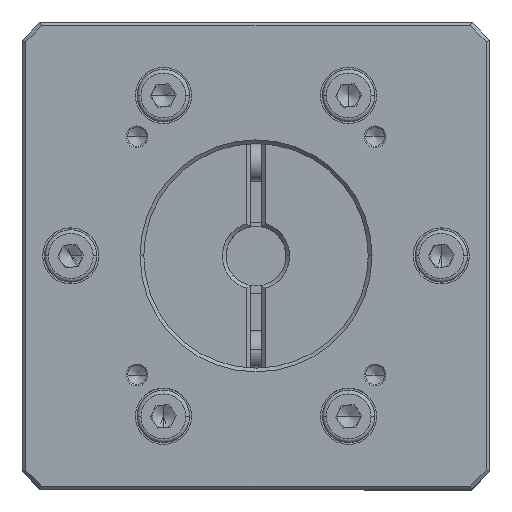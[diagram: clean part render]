
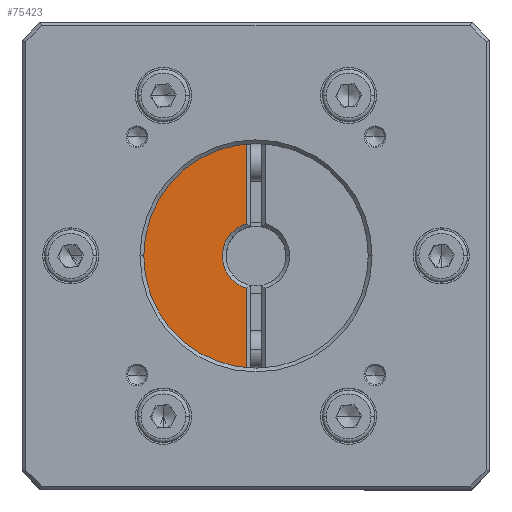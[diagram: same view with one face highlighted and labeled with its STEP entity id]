
A CAD part, top view. The second image highlights one B-rep face of the part: STEP entity #75423.
In plain terms, the highlighted planar face has unit normal (0, 0, 1).
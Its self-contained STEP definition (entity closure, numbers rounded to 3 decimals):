
#2745 = ORIENTED_EDGE ( 'NONE', *, *, #94154, .T. ) ;
#3579 = CIRCLE ( 'NONE', #80127, 17. ) ;
#9097 = DIRECTION ( 'NONE',  ( -1., 0., 0. ) ) ;
#12585 = DIRECTION ( 'NONE',  ( 0., 1., 0. ) ) ;
#16748 = DIRECTION ( 'NONE',  ( 0., 0., -1. ) ) ;
#17692 = EDGE_CURVE ( 'NONE', #57157, #33647, #42965, .T. ) ;
#23717 = EDGE_CURVE ( 'NONE', #57157, #89610, #3579, .T. ) ;
#23718 = DIRECTION ( 'NONE',  ( 0., 0., 1. ) ) ;
#27060 = CARTESIAN_POINT ( 'NONE',  ( -43.37, 4.341, 185.502 ) ) ;
#29405 = AXIS2_PLACEMENT_3D ( 'NONE', #78697, #23718, #87927 ) ;
#29545 = EDGE_CURVE ( 'NONE', #31370, #33647, #108641, .T. ) ;
#31370 = VERTEX_POINT ( 'NONE', #112452 ) ;
#33647 = VERTEX_POINT ( 'NONE', #43409 ) ;
#41619 = VERTEX_POINT ( 'NONE', #48979 ) ;
#42272 = CIRCLE ( 'NONE', #53329, 17. ) ;
#42965 = LINE ( 'NONE', #44922, #86034 ) ;
#43409 = CARTESIAN_POINT ( 'NONE',  ( -27.62, 0.018, 185.502 ) ) ;
#44835 = DIRECTION ( 'NONE',  ( 0., 0., -1. ) ) ;
#44922 = CARTESIAN_POINT ( 'NONE',  ( -27.62, -14.845, 185.502 ) ) ;
#48979 = CARTESIAN_POINT ( 'NONE',  ( -27.62, 21.295, 185.502 ) ) ;
#50903 = ORIENTED_EDGE ( 'NONE', *, *, #23717, .F. ) ;
#53329 = AXIS2_PLACEMENT_3D ( 'NONE', #99807, #44835, #109051 ) ;
#53371 = LINE ( 'NONE', #113385, #74943 ) ;
#54757 = EDGE_LOOP ( 'NONE', ( #50903, #78748, #106779, #2745, #118471 ) ) ;
#57157 = VERTEX_POINT ( 'NONE', #98048 ) ;
#64042 = DIRECTION ( 'NONE',  ( 0., 0., -1. ) ) ;
#71712 = CARTESIAN_POINT ( 'NONE',  ( -26.37, 4.341, 185.502 ) ) ;
#74943 = VECTOR ( 'NONE', #12585, 1000. ) ;
#75423 = ADVANCED_FACE ( 'NONE', ( #97488 ), #82099, .F. ) ;
#78697 = CARTESIAN_POINT ( 'NONE',  ( -26.37, 4.341, 185.502 ) ) ;
#78748 = ORIENTED_EDGE ( 'NONE', *, *, #17692, .T. ) ;
#80127 = AXIS2_PLACEMENT_3D ( 'NONE', #71712, #16748, #80956 ) ;
#80499 = EDGE_CURVE ( 'NONE', #89610, #41619, #42272, .T. ) ;
#80956 = DIRECTION ( 'NONE',  ( -1., 0., 0. ) ) ;
#82099 = PLANE ( 'NONE',  #105563 ) ;
#86034 = VECTOR ( 'NONE', #90624, 1000. ) ;
#87927 = DIRECTION ( 'NONE',  ( 0., 1., 0. ) ) ;
#89610 = VERTEX_POINT ( 'NONE', #27060 ) ;
#90624 = DIRECTION ( 'NONE',  ( 0., 1., 0. ) ) ;
#94154 = EDGE_CURVE ( 'NONE', #31370, #41619, #53371, .T. ) ;
#97488 = FACE_OUTER_BOUND ( 'NONE', #54757, .T. ) ;
#98048 = CARTESIAN_POINT ( 'NONE',  ( -27.62, -12.613, 185.502 ) ) ;
#99807 = CARTESIAN_POINT ( 'NONE',  ( -26.37, 4.341, 185.502 ) ) ;
#105563 = AXIS2_PLACEMENT_3D ( 'NONE', #119137, #64042, #9097 ) ;
#106779 = ORIENTED_EDGE ( 'NONE', *, *, #29545, .F. ) ;
#108641 = CIRCLE ( 'NONE', #29405, 4.5 ) ;
#109051 = DIRECTION ( 'NONE',  ( -1., 0., 0. ) ) ;
#112452 = CARTESIAN_POINT ( 'NONE',  ( -27.62, 8.664, 185.502 ) ) ;
#113385 = CARTESIAN_POINT ( 'NONE',  ( -27.62, -14.845, 185.502 ) ) ;
#118471 = ORIENTED_EDGE ( 'NONE', *, *, #80499, .F. ) ;
#119137 = CARTESIAN_POINT ( 'NONE',  ( -26.37, 21.841, 185.502 ) ) ;
